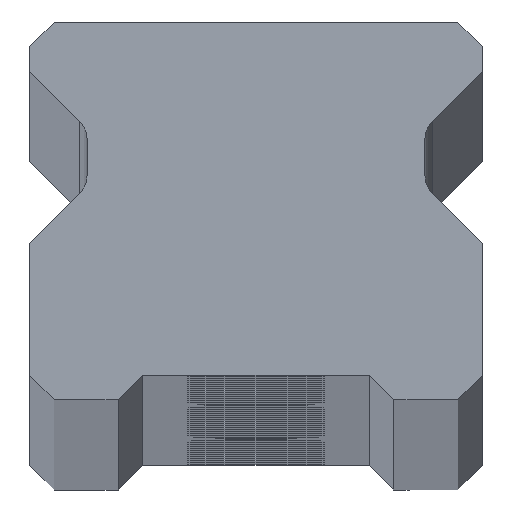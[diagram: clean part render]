
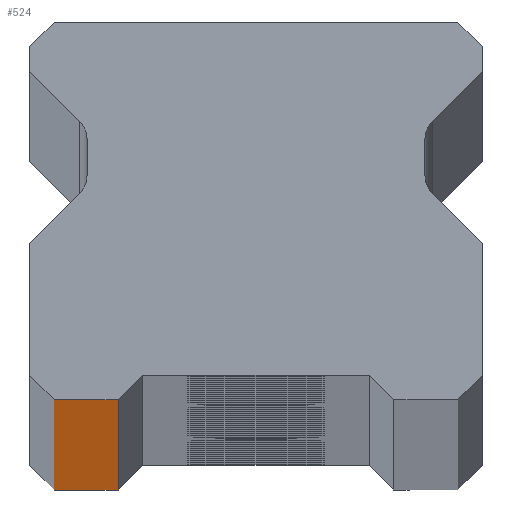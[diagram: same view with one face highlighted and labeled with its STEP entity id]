
A CAD part, top view. The second image highlights one B-rep face of the part: STEP entity #524.
In plain terms, the highlighted planar face has unit normal (0, -1, 0).
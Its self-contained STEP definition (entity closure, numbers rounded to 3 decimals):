
#258 = EDGE_CURVE ( 'NONE', #396, #7171, #4902, .T. ) ;
#396 = VERTEX_POINT ( 'NONE', #2273 ) ;
#524 = ADVANCED_FACE ( 'NONE', ( #1946 ), #1299, .F. ) ;
#567 = VECTOR ( 'NONE', #3248, 1000. ) ;
#642 = VECTOR ( 'NONE', #4417, 1000. ) ;
#866 = CARTESIAN_POINT ( 'NONE',  ( -7., 0., -1310. ) ) ;
#883 = EDGE_CURVE ( 'NONE', #2918, #1025, #5641, .T. ) ;
#945 = ORIENTED_EDGE ( 'NONE', *, *, #3959, .T. ) ;
#1025 = VERTEX_POINT ( 'NONE', #3738 ) ;
#1299 = PLANE ( 'NONE',  #2721 ) ;
#1836 = CARTESIAN_POINT ( 'NONE',  ( -10.25, 0., 1310. ) ) ;
#1917 = VECTOR ( 'NONE', #4882, 1000. ) ;
#1931 = DIRECTION ( 'NONE',  ( -1., 0., 0. ) ) ;
#1946 = FACE_OUTER_BOUND ( 'NONE', #3603, .T. ) ;
#1956 = DIRECTION ( 'NONE',  ( 0., 1., 0. ) ) ;
#1988 = CARTESIAN_POINT ( 'NONE',  ( 11.5, 0., 1310. ) ) ;
#2273 = CARTESIAN_POINT ( 'NONE',  ( -10.25, 0., -1310. ) ) ;
#2316 = LINE ( 'NONE', #866, #7211 ) ;
#2721 = AXIS2_PLACEMENT_3D ( 'NONE', #6630, #1956, #1931 ) ;
#2918 = VERTEX_POINT ( 'NONE', #1836 ) ;
#2977 = ORIENTED_EDGE ( 'NONE', *, *, #7630, .T. ) ;
#3248 = DIRECTION ( 'NONE',  ( 1., 0., 0. ) ) ;
#3473 = ORIENTED_EDGE ( 'NONE', *, *, #258, .T. ) ;
#3603 = EDGE_LOOP ( 'NONE', ( #3473, #2977, #7083, #945 ) ) ;
#3738 = CARTESIAN_POINT ( 'NONE',  ( -7., 0., 1310. ) ) ;
#3799 = CARTESIAN_POINT ( 'NONE',  ( 11.5, 0., -1310. ) ) ;
#3959 = EDGE_CURVE ( 'NONE', #2918, #396, #5617, .T. ) ;
#4417 = DIRECTION ( 'NONE',  ( 1., 0., 0. ) ) ;
#4882 = DIRECTION ( 'NONE',  ( 0., 0., -1. ) ) ;
#4902 = LINE ( 'NONE', #3799, #567 ) ;
#4938 = CARTESIAN_POINT ( 'NONE',  ( -10.25, 0., 1310. ) ) ;
#5477 = CARTESIAN_POINT ( 'NONE',  ( -7., 0., -1310. ) ) ;
#5617 = LINE ( 'NONE', #4938, #1917 ) ;
#5641 = LINE ( 'NONE', #1988, #642 ) ;
#6630 = CARTESIAN_POINT ( 'NONE',  ( 11.5, 0., 1310. ) ) ;
#7083 = ORIENTED_EDGE ( 'NONE', *, *, #883, .F. ) ;
#7171 = VERTEX_POINT ( 'NONE', #5477 ) ;
#7211 = VECTOR ( 'NONE', #7358, 1000. ) ;
#7358 = DIRECTION ( 'NONE',  ( 0., 0., 1. ) ) ;
#7630 = EDGE_CURVE ( 'NONE', #7171, #1025, #2316, .T. ) ;
